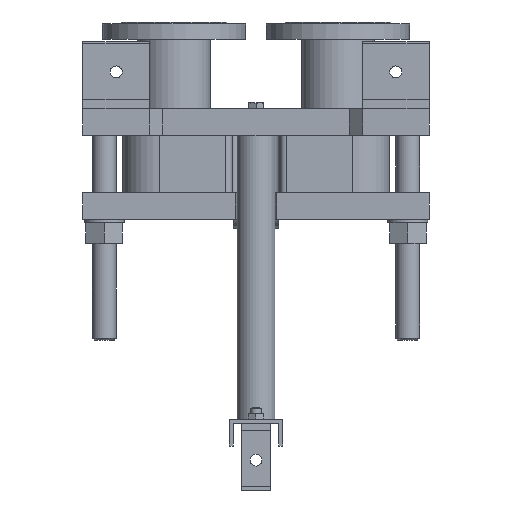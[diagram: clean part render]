
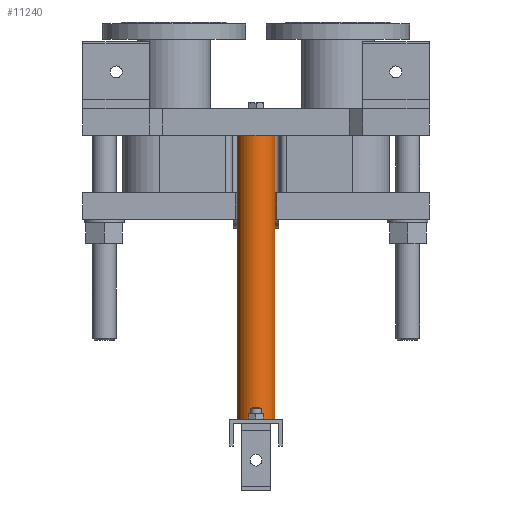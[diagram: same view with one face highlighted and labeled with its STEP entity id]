
A CAD part, front view. The second image highlights one B-rep face of the part: STEP entity #11240.
In plain terms, the highlighted cylindrical face has radius 28.5 mm (diameter 57 mm), a full revolution.
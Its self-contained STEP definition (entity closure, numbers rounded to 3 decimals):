
#781=LINE('',#22043,#1754);
#1754=VECTOR('',#14569,28.5);
#2333=CYLINDRICAL_SURFACE('',#12263,28.5);
#2995=FACE_OUTER_BOUND('',#3777,.T.);
#3777=EDGE_LOOP('',(#9013,#9014,#9015,#9016));
#4462=CIRCLE('',#12264,28.5);
#4463=CIRCLE('',#12265,28.5);
#5286=VERTEX_POINT('',#22040);
#5287=VERTEX_POINT('',#22042);
#6596=EDGE_CURVE('',#5286,#5286,#4462,.T.);
#6597=EDGE_CURVE('',#5286,#5287,#781,.T.);
#6598=EDGE_CURVE('',#5287,#5287,#4463,.T.);
#9013=ORIENTED_EDGE('',*,*,#6596,.F.);
#9014=ORIENTED_EDGE('',*,*,#6597,.T.);
#9015=ORIENTED_EDGE('',*,*,#6598,.T.);
#9016=ORIENTED_EDGE('',*,*,#6597,.F.);
#11240=ADVANCED_FACE('',(#2995),#2333,.T.);
#12263=AXIS2_PLACEMENT_3D('',#22039,#14565,#14566);
#12264=AXIS2_PLACEMENT_3D('',#22041,#14567,#14568);
#12265=AXIS2_PLACEMENT_3D('',#22044,#14570,#14571);
#14565=DIRECTION('center_axis',(0.,0.,
-1.));
#14566=DIRECTION('ref_axis',(-1.,0.,0.));
#14567=DIRECTION('center_axis',(0.,0.,
-1.));
#14568=DIRECTION('ref_axis',(-1.,0.,0.));
#14569=DIRECTION('',(0.,0.,1.));
#14570=DIRECTION('center_axis',(0.,0.,
-1.));
#14571=DIRECTION('ref_axis',(-1.,0.,0.));
#22039=CARTESIAN_POINT('Origin',(0.,215.,0.));
#22040=CARTESIAN_POINT('',(28.5,215.,-426.5));
#22041=CARTESIAN_POINT('Origin',(0.,215.,-426.5));
#22042=CARTESIAN_POINT('',(28.5,215.,0.));
#22043=CARTESIAN_POINT('',(28.5,215.,0.));
#22044=CARTESIAN_POINT('Origin',(0.,215.,0.));
